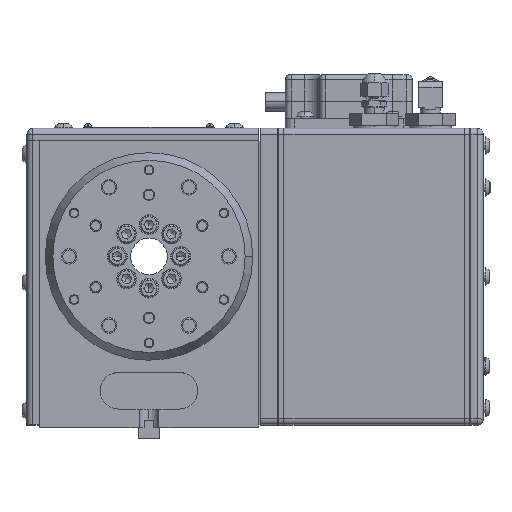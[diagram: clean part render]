
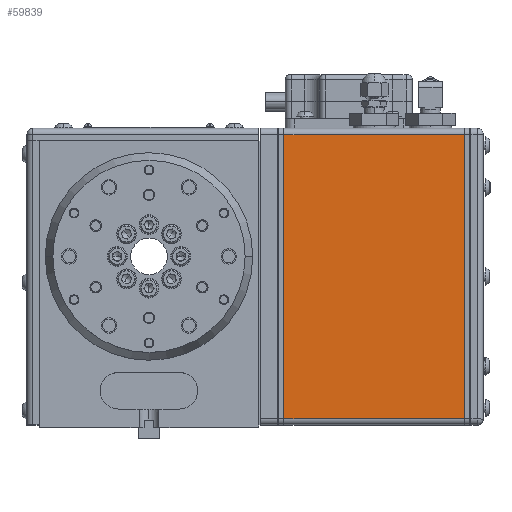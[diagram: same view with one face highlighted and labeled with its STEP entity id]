
A CAD part, top view. The second image highlights one B-rep face of the part: STEP entity #59839.
In plain terms, the highlighted planar face has unit normal (0, 0, 1).
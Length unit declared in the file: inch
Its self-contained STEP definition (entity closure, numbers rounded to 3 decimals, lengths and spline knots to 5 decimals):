
#622 = VERTEX_POINT ( 'NONE', #29722 ) ;
#3356 = CARTESIAN_POINT ( 'NONE',  ( 6.4646, 2.4964, 2.465 ) ) ;
#3725 = EDGE_CURVE ( 'NONE', #70292, #60351, #16605, .T. ) ;
#4308 = FACE_OUTER_BOUND ( 'NONE', #52522, .T. ) ;
#9471 = DIRECTION ( 'NONE',  ( 1., 0., 0. ) ) ;
#12306 = DIRECTION ( 'NONE',  ( 0., 0., 1. ) ) ;
#15488 = CARTESIAN_POINT ( 'NONE',  ( 6.4646, -3.3214, 2.465 ) ) ;
#16605 = LINE ( 'NONE', #77162, #38540 ) ;
#18910 = AXIS2_PLACEMENT_3D ( 'NONE', #24814, #12306, #39451 ) ;
#22331 = CARTESIAN_POINT ( 'NONE',  ( 2.7646, 2.4964, 2.465 ) ) ;
#24814 = CARTESIAN_POINT ( 'NONE',  ( 4.6146, -3.45, 2.465 ) ) ;
#25253 = ORIENTED_EDGE ( 'NONE', *, *, #25557, .F. ) ;
#25557 = EDGE_CURVE ( 'NONE', #622, #60351, #48878, .T. ) ;
#26189 = DIRECTION ( 'NONE',  ( 0., 1., 0. ) ) ;
#29722 = CARTESIAN_POINT ( 'NONE',  ( 6.4646, 2.4964, 2.465 ) ) ;
#30539 = DIRECTION ( 'NONE',  ( -1., 0., 0. ) ) ;
#32272 = ORIENTED_EDGE ( 'NONE', *, *, #3725, .T. ) ;
#34410 = CARTESIAN_POINT ( 'NONE',  ( 2.7646, -3.3214, 2.465 ) ) ;
#34607 = EDGE_CURVE ( 'NONE', #622, #61725, #64305, .T. ) ;
#38189 = VECTOR ( 'NONE', #63108, 39.37008 ) ;
#38540 = VECTOR ( 'NONE', #9471, 39.37008 ) ;
#39451 = DIRECTION ( 'NONE',  ( 0., -1., 0. ) ) ;
#42882 = EDGE_CURVE ( 'NONE', #70292, #61725, #45723, .T. ) ;
#45723 = LINE ( 'NONE', #54605, #78134 ) ;
#48878 = LINE ( 'NONE', #68959, #38189 ) ;
#52522 = EDGE_LOOP ( 'NONE', ( #25253, #58893, #55134, #32272 ) ) ;
#54605 = CARTESIAN_POINT ( 'NONE',  ( 2.7646, -3.3214, 2.465 ) ) ;
#55134 = ORIENTED_EDGE ( 'NONE', *, *, #42882, .F. ) ;
#58893 = ORIENTED_EDGE ( 'NONE', *, *, #34607, .T. ) ;
#59839 = ADVANCED_FACE ( 'NONE', ( #4308 ), #73356, .T. ) ;
#60351 = VERTEX_POINT ( 'NONE', #15488 ) ;
#61725 = VERTEX_POINT ( 'NONE', #22331 ) ;
#63108 = DIRECTION ( 'NONE',  ( 0., -1., 0. ) ) ;
#64305 = LINE ( 'NONE', #3356, #64753 ) ;
#64753 = VECTOR ( 'NONE', #30539, 39.37008 ) ;
#68959 = CARTESIAN_POINT ( 'NONE',  ( 6.4646, 2.4964, 2.465 ) ) ;
#70292 = VERTEX_POINT ( 'NONE', #34410 ) ;
#73356 = PLANE ( 'NONE',  #18910 ) ;
#77162 = CARTESIAN_POINT ( 'NONE',  ( 4.6146, -3.3214, 2.465 ) ) ;
#78134 = VECTOR ( 'NONE', #26189, 39.37008 ) ;
